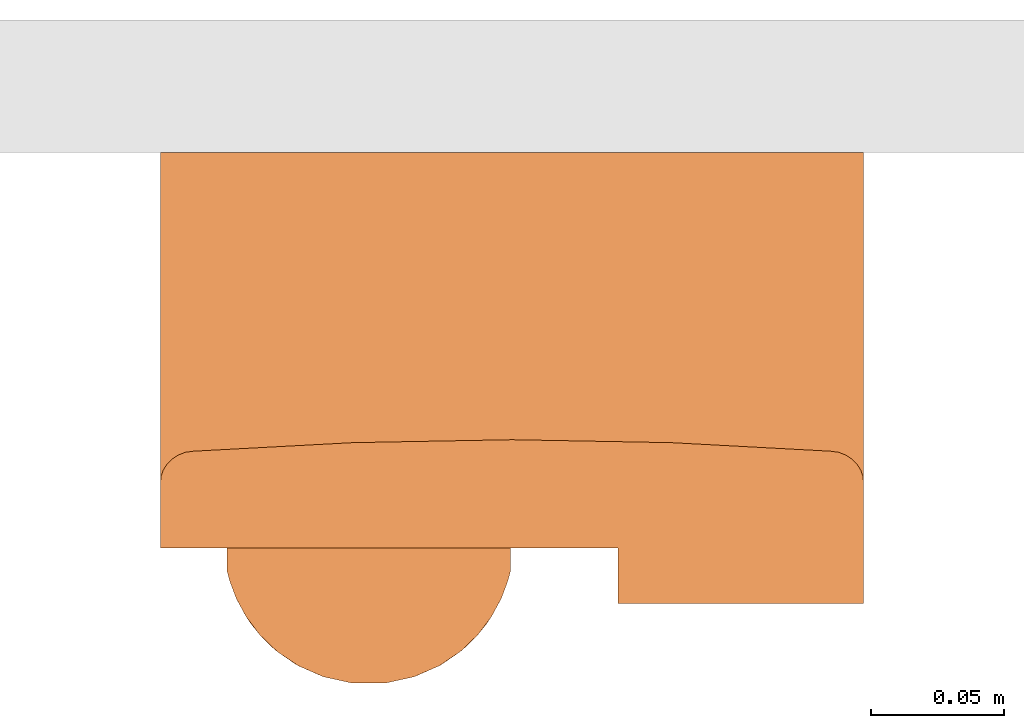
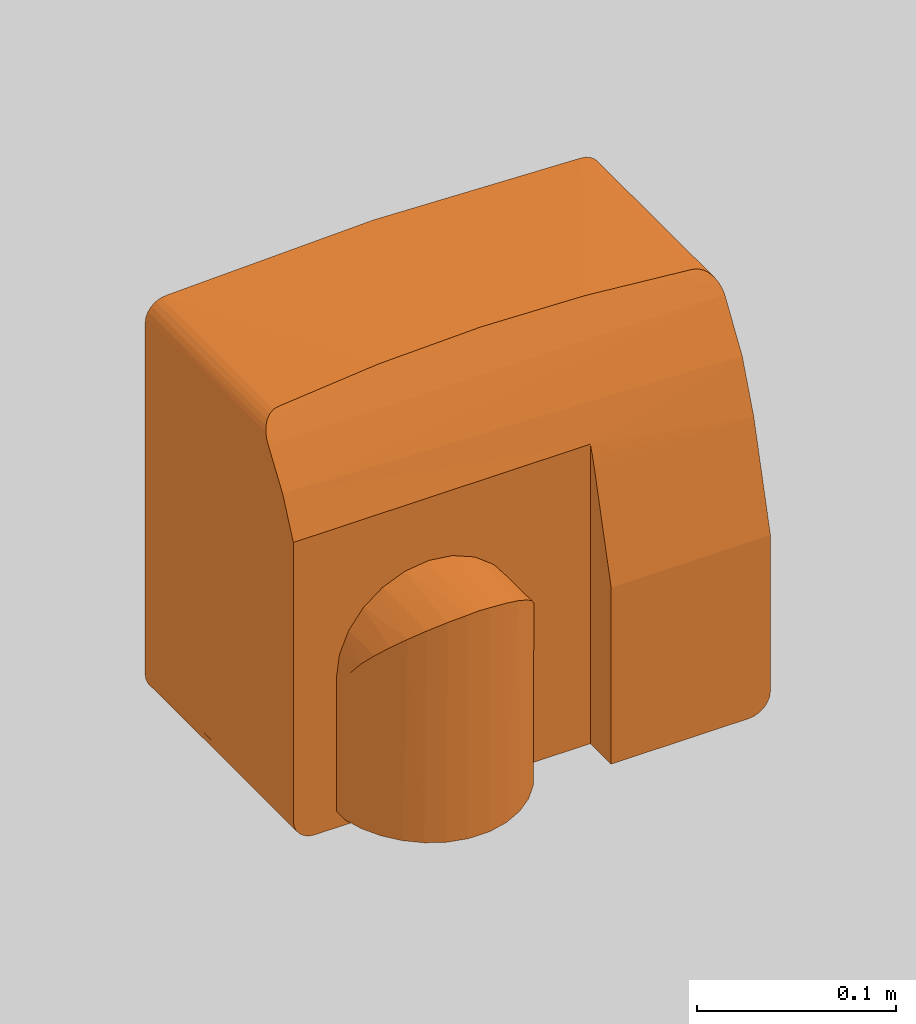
# One storey, part 2 of 2: 1 proxy.
"""IFC2X3 building model written with IfcOpenShell, lengths in millimetres."""

from ifc_helpers import new_model, entity, si_unit, converted_unit, derived_unit, direction, frame, origin, place, context, subcontext, project, spatial, faceted_brep, source, transform, mapped, material, material_list, element, save


model = new_model("IFC2X3")

# Units and contexts
model_context = context("Model", 3, precision=1e-05, world=origin(), true_north=direction((2.0, 6.12303176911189e-17, 1.0)))
context_of_model = context(None, 3, precision=1e-05, world=origin(), true_north=direction((2.0, 6.12303176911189e-17, 1.0)))
body_context = subcontext(model_context, "Body", "Model", "MODEL_VIEW")
ifc_project = project(units=[si_unit("LENGTHUNIT", "METRE", prefix="MILLI"), si_unit("AREAUNIT", "SQUARE_METRE"), si_unit("VOLUMEUNIT", "CUBIC_METRE"), converted_unit("PLANEANGLEUNIT", "DEGREE", entity("IfcRatioMeasure", 0.0174532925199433), si_unit("PLANEANGLEUNIT", "RADIAN"), dimensions=[0, 0, 0, 0, 0, 0, 0]), si_unit("MASSUNIT", "GRAM", prefix="KILO"), si_unit("TIMEUNIT", "SECOND"), si_unit("THERMODYNAMICTEMPERATUREUNIT", "KELVIN"), derived_unit("THERMALTRANSMITTANCEUNIT", [(si_unit("MASSUNIT", "GRAM", prefix="KILO"), 1), (si_unit("THERMODYNAMICTEMPERATUREUNIT", "KELVIN"), -1), (si_unit("TIMEUNIT", "SECOND"), -3)]), derived_unit("VOLUMETRICFLOWRATEUNIT", [(si_unit("LENGTHUNIT", "METRE"), 3), (si_unit("TIMEUNIT", "SECOND"), -1)]), si_unit("POWERUNIT", "WATT")], contexts=[model_context, context_of_model])

# Site, building, storey
site_placement = place(None, origin())
site = spatial("IfcSite", under=ifc_project, at=site_placement, Name="Default", CompositionType="ELEMENT")
building_placement = place(site_placement, origin())
building = spatial("IfcBuilding", under=site, at=building_placement, CompositionType="ELEMENT")
storey_placement = place(building_placement, origin())
storey = spatial("IfcBuildingStorey", under=building, at=storey_placement, Name="Level 1", CompositionType="ELEMENT", Elevation=0.0)

# Proxy
ifc_material_1 = material(Name="Nozzle")
ifc_material_2 = material(Name="Glass")
ifc_material_3 = material(Name="White Metal")
ifc_material_list = material_list([ifc_material_1, ifc_material_2, ifc_material_3])
shared_shape = source(origin(), body_context, "Body", "Brep", [
    faceted_brep([(-60.3260794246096, -200.0, 7.53647156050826), (-60.3260794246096, -200.0, 144.914085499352), (-71.0182156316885, -197.657723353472, 142.510517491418), (-71.3359164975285, -197.55289477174, 7.76343206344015), (-80.528488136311, -193.51974335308, 138.248958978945), (-81.6033651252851, -192.909418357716, 8.16563459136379), (-88.5694414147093, -188.092216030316, 132.620820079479), (-90.6988378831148, -186.269671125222, 8.6758491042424), (-95.1111746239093, -181.810058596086, 126.025671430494), (-98.2442625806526, -177.913357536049, 9.20913577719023), (-100.226919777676, -175.012337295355, 118.721214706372), (-104.002728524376, -168.016031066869, 110.815110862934), (-103.924860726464, -168.188523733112, 9.67663347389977), (-106.48741650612, -161.364633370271, 102.149004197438), (-107.500000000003, -157.499999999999, 10.0), (-106.993708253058, -159.432316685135, 96.969209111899), (-107.499999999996, -157.500000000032, 91.7894140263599), (-53.9769543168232, -200.0, 145.289409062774), (-54.0031886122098, -200.0, 7.50161471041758), (-47.6739205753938, -200.0, 7.53647156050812), (-47.6739205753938, -200.0, 144.914085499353), (-54.0, -145.0, 7.50161470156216), (-107.499999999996, -145.0, 10.0), (-107.499999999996, -145.0, 91.7894140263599), (-106.588515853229, -145.0, 98.7128234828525), (-105.677031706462, -145.0, 105.636232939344), (-100.332359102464, -145.0, 118.539414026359), (-91.8302127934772, -145.0, 129.619626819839), (-80.7499999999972, -145.0, 138.121773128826), (-67.8468189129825, -145.0, 143.466445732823), (-54.0, -145.0, 145.289414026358), (-40.1531810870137, -145.0, 143.466445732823), (-27.249999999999, -145.0, 138.121773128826), (-16.169787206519, -145.0, 129.619626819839), (-7.66764089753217, -145.0, 118.539414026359), (-2.32296829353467, -145.0, 105.636232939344), (-1.41148414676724, -145.0, 98.7128234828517), (-0.499999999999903, -145.0, 91.7894140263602), (-0.500000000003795, -145.0, 10.0), (-26.3966348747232, -192.909418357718, 8.16563459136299), (-17.3011621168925, -186.269671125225, 8.67584910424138), (-4.07513927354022, -168.188523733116, 9.67663347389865), (-9.7557374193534, -177.913357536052, 9.20913577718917), (-0.500000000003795, -157.500000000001, 10.0), (-36.6640835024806, -197.552894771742, 7.76343206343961), (-0.499999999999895, -157.499999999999, 91.7894140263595), (-1.51258349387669, -161.364633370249, 102.14900419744), (-1.00629174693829, -159.432316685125, 96.9692091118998), (-3.99727147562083, -168.016031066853, 110.815110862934), (-19.4305585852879, -188.092216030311, 132.620820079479), (-12.8888253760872, -181.810058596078, 126.025671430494), (-36.9817843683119, -197.657723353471, 142.510517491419), (-7.77308022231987, -175.012337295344, 118.721214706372), (-27.4715118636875, -193.519743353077, 138.248958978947)], [[[0, 1, 2]], [[3, 2, 4]], [[5, 4, 6]], [[0, 2, 3]], [[3, 4, 5]], [[6, 7, 5]], [[6, 8, 7]], [[9, 8, 10]], [[10, 11, 12]], [[13, 12, 11]], [[9, 10, 12]], [[14, 12, 13]], [[14, 13, 15, 16]], [[8, 9, 7]], [[17, 1, 0, 18, 19, 20]], [[21, 22, 23, 24, 25, 26, 27, 28, 29, 30, 31, 32, 33, 34, 35, 36, 37, 38]], [[14, 16, 23, 22]], [[21, 9, 12]], [[9, 21, 7]], [[14, 21, 12]], [[18, 5, 39]], [[3, 18, 0]], [[18, 3, 5]], [[40, 39, 5, 7]], [[14, 22, 21]], [[21, 41, 42]], [[41, 21, 43]], [[38, 43, 21]], [[19, 18, 44]], [[44, 18, 39]], [[21, 42, 40]], [[7, 21, 40]], [[45, 43, 38, 37]], [[36, 35, 46]], [[37, 47, 45]], [[37, 36, 47]], [[46, 35, 48]], [[33, 32, 49]], [[50, 34, 33]], [[48, 35, 34]], [[51, 32, 31]], [[36, 46, 47]], [[50, 52, 34]], [[49, 50, 33]], [[48, 34, 52]], [[53, 32, 51]], [[20, 51, 31]], [[49, 32, 53]], [[17, 20, 30]], [[20, 31, 30]], [[28, 2, 29]], [[29, 1, 30]], [[6, 28, 27]], [[23, 16, 15]], [[27, 26, 8]], [[25, 11, 26]], [[15, 13, 24]], [[2, 28, 4]], [[1, 29, 2]], [[28, 6, 4]], [[13, 25, 24]], [[10, 26, 11]], [[27, 8, 6]], [[23, 15, 24]], [[26, 10, 8]], [[25, 13, 11]], [[30, 1, 17]], [[41, 46, 48]], [[41, 48, 52]], [[42, 52, 50]], [[43, 45, 47, 46]], [[43, 46, 41]], [[52, 42, 41]], [[50, 40, 42]], [[39, 49, 53]], [[53, 51, 44]], [[20, 19, 51]], [[40, 49, 39]], [[44, 39, 53]], [[19, 44, 51]], [[49, 40, 50]]]),
    faceted_brep([(-46.6000328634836, -149.287294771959, 4.01399545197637), (-47.0393726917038, -149.287294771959, 5.07465562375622), (-48.1000328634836, -149.287294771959, 5.51399545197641), (-59.8999671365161, -149.287294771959, 5.51399545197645), (-60.9606273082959, -149.287294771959, 5.07465562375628), (-61.3999671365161, -149.287294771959, 4.01399545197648), (-61.3999671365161, -149.287294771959, 2.37218605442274), (-60.9606273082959, -149.287294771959, 1.31152588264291), (-59.8999671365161, -149.287294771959, 0.872186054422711), (-48.1000328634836, -149.287294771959, 0.872186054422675), (-47.0393726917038, -149.287294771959, 1.31152588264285), (-46.6000328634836, -149.287294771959, 2.37218605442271), (-61.3999671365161, -146.192328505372, 4.01399545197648), (-60.9606273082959, -146.192328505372, 5.07465562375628), (-59.8999671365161, -146.192328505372, 5.51399545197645), (-48.1000328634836, -146.192328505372, 5.51399545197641), (-47.0393726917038, -146.192328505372, 5.07465562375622), (-46.6000328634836, -146.192328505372, 4.01399545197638), (-46.6000328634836, -146.192328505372, 2.37218605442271), (-47.0393726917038, -146.192328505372, 1.31152588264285), (-48.1000328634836, -146.192328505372, 0.872186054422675), (-59.8999671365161, -146.192328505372, 0.872186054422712), (-60.9606273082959, -146.192328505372, 1.31152588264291), (-61.3999671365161, -146.192328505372, 2.37218605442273)], [[[0, 1, 2, 3, 4, 5, 6, 7, 8, 9, 10, 11]], [[12, 13, 14, 15, 16, 17, 18, 19, 20, 21, 22, 23]], [[3, 2, 15, 14]], [[3, 14, 13, 4]], [[13, 12, 5, 4]], [[6, 5, 12, 23]], [[6, 23, 22, 7]], [[22, 21, 8, 7]], [[9, 8, 21, 20]], [[9, 20, 19, 10]], [[19, 18, 11, 10]], [[0, 11, 18, 17]], [[0, 17, 16, 1]], [[16, 15, 2, 1]]]),
    faceted_brep([(-92.1715728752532, -10.0, 218.669472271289), (-93.0, -10.0, 218.033797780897), (-93.9647238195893, -10.0, 217.634196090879), (-95.0, -10.0, 217.497899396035), (-96.0352761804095, -10.0, 217.634196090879), (-97.0, -10.0, 218.033797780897), (-97.8284271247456, -10.0, 218.669472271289), (-98.4641016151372, -10.0, 219.497899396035), (-98.8637033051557, -10.0, 220.462623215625), (-99.0, -10.0, 221.497899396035), (-98.8637033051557, -10.0, 222.533175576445), (-98.4641016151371, -10.0, 223.497899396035), (-97.8284271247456, -10.0, 224.326326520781), (-97.0, -10.0, 224.962001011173), (-96.0352761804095, -10.0, 225.361602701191), (-95.0, -10.0, 225.497899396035), (-93.9647238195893, -10.0, 225.361602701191), (-93.0, -10.0, 224.962001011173), (-92.1715728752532, -10.0, 224.326326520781), (-91.5358983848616, -10.0, 223.497899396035), (-91.1362966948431, -10.0, 222.533175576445), (-91.0, -10.0, 221.497899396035), (-91.1362966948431, -10.0, 220.462623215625), (-91.5358983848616, -10.0, 219.497899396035), (-68.9647238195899, -10.0, 19.6341960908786), (-70.0, -10.0, 19.4978993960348), (-71.0352761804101, -10.0, 19.6341960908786), (-72.0, -10.0, 20.0337977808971), (-72.8284271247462, -10.0, 20.6694722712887), (-73.4641016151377, -10.0, 21.4978993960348), (-73.8637033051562, -10.0, 22.4626232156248), (-74.0, -10.0, 23.4978993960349), (-73.8637033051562, -10.0, 24.533175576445), (-73.4641016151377, -10.0, 25.4978993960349), (-72.8284271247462, -10.0, 26.326326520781), (-72.0, -10.0, 26.9620010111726), (-71.03527618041, -10.0, 27.3616027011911), (-70.0, -10.0, 27.4978993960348), (-68.9647238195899, -10.0, 27.3616027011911), (-68.0, -10.0, 26.9620010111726), (-67.1715728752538, -10.0, 26.326326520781), (-66.5358983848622, -10.0, 25.4978993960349), (-66.1362966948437, -10.0, 24.5331755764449), (-66.0, -10.0, 23.4978993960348), (-66.1362966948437, -10.0, 22.4626232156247), (-66.5358983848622, -10.0, 21.4978993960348), (-67.1715728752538, -10.0, 20.6694722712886), (-68.0, -10.0, 20.0337977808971), (47.8284271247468, -10.0, 218.669472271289), (47.0, -10.0, 218.033797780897), (46.0352761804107, -10.0, 217.634196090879), (45.0, -10.0, 217.497899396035), (43.9647238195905, -10.0, 217.634196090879), (43.0, -10.0, 218.033797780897), (42.1715728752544, -10.0, 218.669472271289), (41.5358983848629, -10.0, 219.497899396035), (41.1362966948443, -10.0, 220.462623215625), (41.0, -10.0, 221.497899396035), (41.1362966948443, -10.0, 222.533175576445), (41.5358983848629, -10.0, 223.497899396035), (42.1715728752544, -10.0, 224.326326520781), (43.0, -10.0, 224.962001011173), (43.9647238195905, -10.0, 225.361602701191), (45.0, -10.0, 225.497899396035), (46.0352761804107, -10.0, 225.361602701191), (47.0, -10.0, 224.962001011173), (47.8284271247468, -10.0, 224.326326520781), (48.4641016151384, -10.0, 223.497899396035), (48.8637033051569, -10.0, 222.533175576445), (49.0, -10.0, 221.497899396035), (48.8637033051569, -10.0, 220.462623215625), (48.4641016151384, -10.0, 219.497899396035), (71.0352761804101, -10.0, 19.6341960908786), (70.0, -10.0, 19.4978993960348), (68.9647238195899, -10.0, 19.6341960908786), (68.0, -10.0, 20.0337977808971), (67.1715728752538, -10.0, 20.6694722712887), (66.5358983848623, -10.0, 21.4978993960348), (66.1362966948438, -10.0, 22.4626232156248), (66.0, -10.0, 23.4978993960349), (66.1362966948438, -10.0, 24.533175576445), (66.5358983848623, -10.0, 25.4978993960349), (67.1715728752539, -10.0, 26.326326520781), (68.0, -10.0, 26.9620010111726), (68.96472381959, -10.0, 27.3616027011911), (70.0, -10.0, 27.4978993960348), (71.0352761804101, -10.0, 27.3616027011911), (72.0, -10.0, 26.9620010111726), (72.8284271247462, -10.0, 26.326326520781), (73.4641016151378, -10.0, 25.4978993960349), (73.8637033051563, -10.0, 24.5331755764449), (74.0, -10.0, 23.4978993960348), (73.8637033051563, -10.0, 22.4626232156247), (73.4641016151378, -10.0, 21.4978993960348), (72.8284271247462, -10.0, 20.6694722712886), (72.0, -10.0, 20.0337977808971), (132.500000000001, 0.0, 228.37460171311), (120.0, 0.0, 240.874601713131), (123.235238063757, 0.0, 240.448674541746), (132.074072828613, 0.0, 231.609839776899), (48.4641016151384, 0.0, 219.497899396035), (47.8284271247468, 0.0, 218.669472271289), (47.0, 0.0, 218.033797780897), (71.0352761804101, 0.0, 27.3616027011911), (72.0, 0.0, 26.9620010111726), (132.500000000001, 0.0, 12.4999999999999), (72.8284271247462, 0.0, 26.3263265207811), (73.4641016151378, 0.0, 25.4978993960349), (73.8637033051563, 0.0, 24.533175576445), (74.0, 0.0, 23.4978993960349), (120.0, 0.0, 0.0), (123.235238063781, 0.0, 0.425927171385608), (132.074072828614, 0.0, 9.26476193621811), (126.25, 0.0, 1.67468245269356), (130.825317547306, 0.0, 6.24999999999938), (128.838834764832, 0.0, 3.66116523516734), (73.8637033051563, 0.0, 22.4626232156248), (73.4641016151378, 0.0, 21.4978993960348), (72.8284271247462, 0.0, 20.6694722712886), (72.0, 0.0, 20.0337977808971), (71.0352761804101, 0.0, 19.6341960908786), (70.0, 0.0, 19.4978993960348), (68.9647238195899, 0.0, 19.6341960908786), (-68.9647238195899, 0.0, 19.6341960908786), (-120.0, 0.0, 0.0), (-70.0, 0.0, 19.4978993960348), (-71.0352761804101, 0.0, 19.6341960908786), (-72.0, 0.0, 20.0337977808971), (-72.8284271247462, 0.0, 20.6694722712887), (-73.4641016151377, 0.0, 21.4978993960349), (-73.8637033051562, 0.0, 22.4626232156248), (-74.0, 0.0, 23.4978993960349), (-132.5, 0.0, 12.5), (-123.235238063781, 0.0, 0.425927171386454), (-132.074072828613, 0.0, 9.26476193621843), (-126.25, 0.0, 1.67468245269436), (-130.825317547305, 0.0, 6.24999999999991), (-128.838834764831, 0.0, 3.66116523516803), (-73.8637033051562, 0.0, 24.5331755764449), (-73.4641016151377, 0.0, 25.4978993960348), (-72.8284271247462, 0.0, 26.326326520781), (-72.0, 0.0, 26.9620010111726), (-96.0352761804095, 0.0, 217.634196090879), (-97.0, 0.0, 218.033797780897), (-132.499999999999, 0.0, 228.37460171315), (-97.8284271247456, 0.0, 218.669472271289), (-98.4641016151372, 0.0, 219.497899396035), (-98.8637033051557, 0.0, 220.462623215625), (-99.0, 0.0, 221.497899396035), (-98.8637033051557, 0.0, 222.533175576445), (-120.0, 0.0, 240.874601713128), (-123.235238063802, 0.0, 240.448674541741), (-132.074072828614, 0.0, 231.609839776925), (-126.250000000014, 0.0, 239.199919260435), (-130.825317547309, 0.0, 234.624601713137), (-128.83883476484, 0.0, 237.213436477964), (-98.4641016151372, 0.0, 223.497899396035), (-97.8284271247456, 0.0, 224.326326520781), (-97.0, 0.0, 224.962001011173), (-96.0352761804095, 0.0, 225.361602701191), (-95.0, 0.0, 225.497899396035), (-93.9647238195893, 0.0, 225.361602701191), (0.0, 0.0, 244.99579879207), (46.0352761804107, 0.0, 225.361602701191), (45.0, 0.0, 225.497899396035), (43.9647238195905, 0.0, 225.361602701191), (43.0, 0.0, 224.962001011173), (42.1715728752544, 0.0, 224.326326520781), (41.5358983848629, 0.0, 223.497899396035), (41.1362966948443, 0.0, 222.533175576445), (41.0, 0.0, 221.497899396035), (41.1362966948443, 0.0, 220.462623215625), (41.5358983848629, 0.0, 219.497899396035), (42.1715728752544, 0.0, 218.669472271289), (-92.1715728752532, 0.0, 218.669472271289), (-93.0, 0.0, 224.962001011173), (-92.1715728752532, 0.0, 224.326326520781), (-91.5358983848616, 0.0, 219.497899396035), (-91.1362966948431, 0.0, 220.462623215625), (-91.0, 0.0, 221.497899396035), (-91.1362966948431, 0.0, 222.533175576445), (-91.5358983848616, 0.0, 223.497899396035), (-71.0352761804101, 0.0, 27.3616027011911), (-95.0, 0.0, 217.497899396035), (-70.0, 0.0, 27.4978993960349), (-93.9647238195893, 0.0, 217.634196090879), (-68.9647238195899, 0.0, 27.3616027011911), (-93.0, 0.0, 218.033797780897), (43.0, 0.0, 218.033797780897), (-68.0, 0.0, 26.9620010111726), (68.0, 0.0, 26.9620010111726), (-67.1715728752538, 0.0, 26.3263265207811), (-68.0, 0.0, 20.0337977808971), (68.0, 0.0, 20.0337977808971), (-67.1715728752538, 0.0, 20.6694722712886), (67.1715728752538, 0.0, 20.6694722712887), (-66.5358983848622, 0.0, 21.4978993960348), (66.5358983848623, 0.0, 21.4978993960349), (-66.1362966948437, 0.0, 22.4626232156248), (66.1362966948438, 0.0, 22.4626232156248), (-66.0, 0.0, 23.4978993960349), (66.0, 0.0, 23.4978993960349), (-66.1362966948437, 0.0, 24.533175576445), (66.1362966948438, 0.0, 24.5331755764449), (-66.5358983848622, 0.0, 25.4978993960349), (66.5358983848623, 0.0, 25.4978993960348), (67.1715728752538, 0.0, 26.326326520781), (46.0352761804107, 0.0, 217.634196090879), (70.0, 0.0, 27.4978993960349), (45.0, 0.0, 217.497899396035), (68.9647238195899, 0.0, 27.3616027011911), (43.9647238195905, 0.0, 217.634196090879), (48.8637033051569, 0.0, 220.462623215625), (49.0, 0.0, 221.497899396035), (48.8637033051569, 0.0, 222.533175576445), (48.4641016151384, 0.0, 223.497899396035), (47.8284271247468, 0.0, 224.326326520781), (47.0, 0.0, 224.962001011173), (126.249999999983, 0.0, 239.199919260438), (130.825317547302, 0.0, 234.624601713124), (128.838834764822, 0.0, 237.213436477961), (-128.901949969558, -78.0410801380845, 3.72473437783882), (-130.825317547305, -149.152791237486, 6.25000000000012), (-128.838834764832, -149.152791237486, 3.66116523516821), (-132.5, -61.7252012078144, 12.5), (-132.074072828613, -149.152791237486, 9.26476193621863), (-132.5, -149.152791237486, 12.5), (-123.235238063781, -149.152791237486, 0.425927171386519), (-120.0, -87.4275963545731, 0.0), (-120.0, -149.152791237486, 0.0), (-126.25, -149.152791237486, 1.67468245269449), (40.0, -149.152791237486, 0.0), (120.0, -61.7252016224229, 0.0), (120.0, -170.0, 0.0), (40.0, -170.0, 0.0), (128.480663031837, -95.609208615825, 3.31695287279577), (123.235238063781, -170.0, 0.425927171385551), (126.25, -170.0, 1.67468245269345), (128.838834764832, -170.0, 3.6611652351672), (132.074072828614, -170.0, 9.26476193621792), (132.500000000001, -108.27480147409, 12.4999999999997), (132.500000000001, -170.0, 12.4999999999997), (130.825317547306, -170.0, 6.24999999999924), (132.500000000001, -170.0, 108.37460171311), (132.500000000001, -123.898395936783, 228.374601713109), (132.500000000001, -141.617957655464, 201.139896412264), (132.500000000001, -153.270597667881, 170.80958119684), (132.241279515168, -121.799942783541, 230.904636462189), (131.476284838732, -119.701996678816, 233.328881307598), (130.208448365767, -117.66561801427, 235.588309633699), (126.09634375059, -114.151467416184, 239.287190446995), (123.236969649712, -112.999398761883, 240.448210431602), (120.0, -112.570134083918, 240.874601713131), (128.423197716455, -115.773273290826, 237.610387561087), (60.0719549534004, -109.356680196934, 243.963939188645), (-0.00194609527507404, -108.241088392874, 244.995798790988), (-60.0754587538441, -109.356809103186, 243.963818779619), (-120.0, -112.570134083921, 240.874601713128), (-123.233897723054, -112.998573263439, 240.449033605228), (-128.422198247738, -115.772404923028, 237.61129899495), (-126.093850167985, -114.150099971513, 239.28858311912), (-130.208861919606, -117.666156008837, 235.587724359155), (-131.477272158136, -119.70401816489, 233.326593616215), (-132.241866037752, -121.802349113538, 230.901796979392), (-132.499999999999, -123.898395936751, 228.37460171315), (-132.499999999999, -149.152791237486, 183.847470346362), (-132.499999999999, -138.399551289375, 207.120133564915), (40.0, -170.0, 108.37460171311), (40.0, -153.270597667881, 170.80958119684), (40.0, -149.152791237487, 183.847470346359), (40.0, -151.35552509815, 177.373952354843)], [[[0, 1, 2, 3, 4, 5, 6, 7, 8, 9, 10, 11, 12, 13, 14, 15, 16, 17, 18, 19, 20, 21, 22, 23]], [[24, 25, 26, 27, 28, 29, 30, 31, 32, 33, 34, 35, 36, 37, 38, 39, 40, 41, 42, 43, 44, 45, 46, 47]], [[48, 49, 50, 51, 52, 53, 54, 55, 56, 57, 58, 59, 60, 61, 62, 63, 64, 65, 66, 67, 68, 69, 70, 71]], [[72, 73, 74, 75, 76, 77, 78, 79, 80, 81, 82, 83, 84, 85, 86, 87, 88, 89, 90, 91, 92, 93, 94, 95]], [[96, 97, 98]], [[96, 98, 99]], [[97, 96, 100]], [[101, 100, 96]], [[101, 96, 102]], [[102, 96, 103]], [[103, 96, 104]], [[104, 96, 105]], [[106, 104, 105]], [[106, 105, 107]], [[108, 107, 105]], [[109, 108, 105]], [[110, 109, 105]], [[110, 105, 111]], [[111, 105, 112]], [[113, 111, 112]], [[114, 113, 112]], [[114, 115, 113]], [[116, 109, 110]], [[110, 117, 116]], [[117, 110, 118]], [[118, 110, 119]], [[120, 119, 110]], [[120, 110, 121]], [[122, 121, 110]], [[110, 123, 122]], [[123, 110, 124]], [[125, 123, 124]], [[125, 124, 126]], [[127, 126, 124]], [[128, 127, 124]], [[129, 128, 124]], [[124, 130, 129]], [[131, 130, 124]], [[132, 131, 124]], [[133, 132, 124]], [[134, 132, 133]], [[135, 134, 133]], [[136, 134, 135]], [[137, 136, 135]], [[138, 131, 132]], [[139, 138, 132]], [[132, 140, 139]], [[132, 141, 140]], [[141, 132, 142]], [[132, 143, 142]], [[143, 132, 144]], [[145, 143, 144]], [[146, 145, 144]], [[147, 146, 144]], [[147, 144, 148]], [[149, 148, 144]], [[149, 144, 150]], [[151, 150, 144]], [[144, 152, 151]], [[152, 153, 151]], [[152, 154, 153]], [[154, 155, 153]], [[150, 156, 149]], [[150, 157, 156]], [[158, 157, 150]], [[159, 158, 150]], [[160, 159, 150]], [[161, 160, 150]], [[150, 162, 161]], [[162, 97, 163]], [[163, 164, 162]], [[165, 162, 164]], [[162, 165, 166]], [[166, 167, 162]], [[162, 167, 168]], [[168, 169, 162]], [[169, 170, 162]], [[170, 171, 162]], [[171, 172, 162]], [[172, 173, 162]], [[173, 174, 162]], [[161, 162, 175]], [[176, 175, 162]], [[174, 177, 162]], [[178, 162, 177]], [[178, 179, 162]], [[179, 180, 162]], [[180, 181, 162]], [[176, 162, 181]], [[141, 142, 182]], [[142, 183, 182]], [[182, 183, 184]], [[183, 185, 184]], [[186, 184, 185]], [[186, 185, 187]], [[174, 188, 187]], [[189, 187, 188]], [[186, 187, 189]], [[189, 188, 190]], [[190, 191, 189]], [[192, 122, 123]], [[193, 122, 192]], [[194, 193, 192]], [[193, 194, 195]], [[194, 196, 195]], [[197, 195, 196]], [[197, 196, 198]], [[199, 197, 198]], [[198, 200, 199]], [[199, 200, 201]], [[201, 200, 202]], [[203, 201, 202]], [[204, 203, 202]], [[205, 203, 204]], [[206, 205, 204]], [[191, 206, 204]], [[190, 206, 191]], [[103, 207, 102]], [[208, 207, 103]], [[208, 209, 207]], [[208, 210, 209]], [[190, 211, 210]], [[210, 211, 209]], [[212, 97, 100]], [[213, 97, 212]], [[213, 214, 97]], [[214, 215, 97]], [[216, 97, 215]], [[216, 217, 97]], [[97, 217, 163]], [[174, 173, 188]], [[190, 188, 211]], [[99, 98, 218]], [[219, 99, 218]], [[220, 219, 218]], [[136, 137, 221]], [[222, 221, 223]], [[221, 224, 136]], [[134, 224, 132]], [[225, 226, 224]], [[135, 133, 221]], [[227, 228, 229]], [[124, 228, 133]], [[224, 134, 136]], [[225, 224, 221]], [[230, 221, 228]], [[228, 227, 230]], [[222, 225, 221]], [[135, 221, 137]], [[230, 223, 221]], [[133, 228, 221]], [[231, 229, 228, 124, 110, 232, 233, 234]], [[113, 115, 235]], [[235, 114, 112]], [[232, 111, 113]], [[111, 232, 110]], [[236, 233, 232]], [[237, 235, 238]], [[239, 240, 241]], [[105, 240, 112]], [[240, 239, 242]], [[236, 232, 235]], [[240, 242, 235]], [[237, 236, 235]], [[235, 115, 114]], [[238, 235, 242]], [[112, 240, 235]], [[235, 232, 113]], [[243, 241, 240, 105, 96, 244, 245, 246]], [[247, 96, 99]], [[248, 99, 219]], [[244, 96, 247]], [[249, 248, 219]], [[99, 248, 247]], [[219, 220, 249]], [[250, 220, 218]], [[251, 218, 98]], [[252, 98, 97]], [[250, 253, 220]], [[252, 251, 98]], [[250, 218, 251]], [[220, 253, 249]], [[97, 162, 254]], [[254, 252, 97]], [[162, 255, 254]], [[162, 256, 255]], [[256, 162, 150]], [[257, 256, 150]], [[151, 153, 258]], [[150, 151, 257]], [[258, 257, 151]], [[155, 259, 260]], [[258, 153, 260]], [[260, 153, 155]], [[261, 155, 154]], [[262, 154, 152]], [[263, 152, 144]], [[262, 261, 154]], [[263, 262, 152]], [[144, 264, 263]], [[155, 261, 259]], [[265, 266, 264, 144, 132, 224, 226]], [[241, 243, 267, 234, 233, 236, 237, 238, 242, 239]], [[268, 267, 243, 246]], [[246, 245, 269]], [[266, 269, 245]], [[246, 269, 270]], [[244, 255, 264]], [[245, 244, 266]], [[244, 247, 254]], [[270, 268, 246]], [[266, 244, 264]], [[269, 266, 265]], [[256, 263, 264]], [[263, 256, 262]], [[247, 248, 254]], [[254, 249, 253]], [[252, 253, 250]], [[252, 254, 253]], [[252, 250, 251]], [[254, 255, 244]], [[259, 257, 260]], [[256, 259, 261]], [[257, 259, 256]], [[258, 260, 257]], [[261, 262, 256]], [[255, 256, 264]], [[248, 249, 254]], [[267, 268, 270, 269, 231, 234]], [[269, 265, 226, 225, 222, 223, 230, 227, 229, 231]], [[170, 57, 56, 171]], [[171, 56, 55, 172]], [[188, 173, 54, 53]], [[54, 173, 172, 55]], [[211, 188, 53, 52]], [[211, 52, 51, 209]], [[209, 51, 50, 207]], [[207, 50, 49, 102]], [[100, 101, 48, 71]], [[48, 101, 102, 49]], [[212, 100, 71, 70]], [[212, 70, 69, 213]], [[213, 69, 68, 214]], [[214, 68, 67, 215]], [[217, 216, 66, 65]], [[66, 216, 215, 67]], [[163, 217, 65, 64]], [[163, 64, 63, 164]], [[164, 63, 62, 165]], [[165, 62, 61, 166]], [[168, 167, 60, 59]], [[60, 167, 166, 61]], [[169, 168, 59, 58]], [[169, 58, 57, 170]], [[148, 9, 8, 147]], [[147, 8, 7, 146]], [[143, 145, 6, 5]], [[6, 145, 146, 7]], [[142, 143, 5, 4]], [[142, 4, 3, 183]], [[183, 3, 2, 185]], [[185, 2, 1, 187]], [[177, 174, 0, 23]], [[0, 174, 187, 1]], [[178, 177, 23, 22]], [[178, 22, 21, 179]], [[179, 21, 20, 180]], [[180, 20, 19, 181]], [[175, 176, 18, 17]], [[18, 176, 181, 19]], [[161, 175, 17, 16]], [[161, 16, 15, 160]], [[160, 15, 14, 159]], [[159, 14, 13, 158]], [[156, 157, 12, 11]], [[12, 157, 158, 13]], [[149, 156, 11, 10]], [[149, 10, 9, 148]], [[131, 31, 30, 130]], [[130, 30, 29, 129]], [[127, 128, 28, 27]], [[28, 128, 129, 29]], [[126, 127, 27, 26]], [[126, 26, 25, 125]], [[125, 25, 24, 123]], [[123, 24, 47, 192]], [[196, 194, 46, 45]], [[46, 194, 192, 47]], [[198, 196, 45, 44]], [[198, 44, 43, 200]], [[200, 43, 42, 202]], [[202, 42, 41, 204]], [[189, 191, 40, 39]], [[40, 191, 204, 41]], [[186, 189, 39, 38]], [[186, 38, 37, 184]], [[184, 37, 36, 182]], [[182, 36, 35, 141]], [[139, 140, 34, 33]], [[34, 140, 141, 35]], [[138, 139, 33, 32]], [[138, 32, 31, 131]], [[201, 79, 78, 199]], [[199, 78, 77, 197]], [[193, 195, 76, 75]], [[76, 195, 197, 77]], [[122, 193, 75, 74]], [[122, 74, 73, 121]], [[121, 73, 72, 120]], [[120, 72, 95, 119]], [[117, 118, 94, 93]], [[94, 118, 119, 95]], [[116, 117, 93, 92]], [[116, 92, 91, 109]], [[109, 91, 90, 108]], [[108, 90, 89, 107]], [[104, 106, 88, 87]], [[88, 106, 107, 89]], [[103, 104, 87, 86]], [[103, 86, 85, 208]], [[208, 85, 84, 210]], [[210, 84, 83, 190]], [[205, 206, 82, 81]], [[82, 206, 190, 83]], [[203, 205, 81, 80]], [[203, 80, 79, 201]]]),
])
proxy_placement = place(storey_placement, frame((1278.20150339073, 3952.69853342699, 396.766938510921)))
element("IfcBuildingElementProxy", 1, at=proxy_placement, inside=storey, material=ifc_material_list, Name="BC230W:BC230W Dolphin White Metal Hand Dryer", ObjectType="BC230W Dolphin White Metal Hand Dryer", CompositionType="ELEMENT", context=body_context, shape_type="MappedRepresentation", body=[
    mapped(shared_shape, transform((0.0, 0.0, 0.0), scale=1.0)),
])

save(model, "model.ifc")
